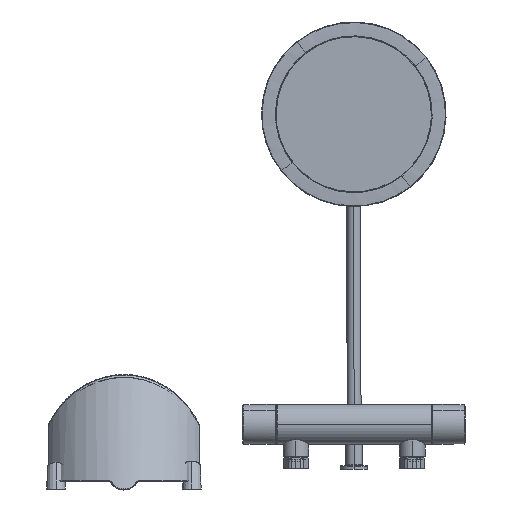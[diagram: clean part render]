
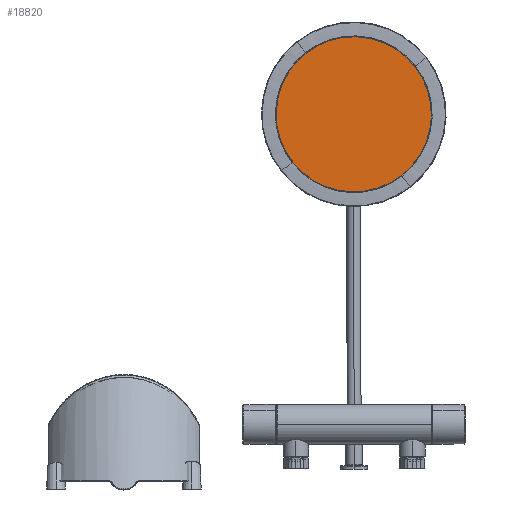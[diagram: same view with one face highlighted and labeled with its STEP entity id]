
A CAD part, front view. The second image highlights one B-rep face of the part: STEP entity #18820.
In plain terms, the highlighted planar face has unit normal (0, -1, 0).
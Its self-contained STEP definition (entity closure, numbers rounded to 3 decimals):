
#233 = DIRECTION ( 'NONE',  ( 0.788, 0., 0.616 ) ) ;
#716 = CARTESIAN_POINT ( 'NONE',  ( -0.385, 685.012, 483.308 ) ) ;
#1523 = CIRCLE ( 'NONE', #18717, 100.013 ) ;
#2017 = VERTEX_POINT ( 'NONE', #10421 ) ;
#2275 = DIRECTION ( 'NONE',  ( 0., 1., 0. ) ) ;
#2969 = CARTESIAN_POINT ( 'NONE',  ( -61.947, 685.012, 562.128 ) ) ;
#3748 = EDGE_CURVE ( 'NONE', #2017, #18574, #17295, .T. ) ;
#7068 = DIRECTION ( 'NONE',  ( 0., 1., 0. ) ) ;
#7111 = EDGE_LOOP ( 'NONE', ( #15723, #13691 ) ) ;
#9506 = DIRECTION ( 'NONE',  ( 0., 1., 0. ) ) ;
#9981 = PLANE ( 'NONE',  #18267 ) ;
#10265 = EDGE_CURVE ( 'NONE', #18574, #2017, #1523, .T. ) ;
#10421 = CARTESIAN_POINT ( 'NONE',  ( 61.178, 685.012, 404.487 ) ) ;
#12076 = FACE_OUTER_BOUND ( 'NONE', #7111, .T. ) ;
#13103 = DIRECTION ( 'NONE',  ( 0.788, 0., 0.616 ) ) ;
#13691 = ORIENTED_EDGE ( 'NONE', *, *, #10265, .F. ) ;
#15723 = ORIENTED_EDGE ( 'NONE', *, *, #3748, .F. ) ;
#16315 = CARTESIAN_POINT ( 'NONE',  ( -0.385, 685.012, 483.308 ) ) ;
#16398 = AXIS2_PLACEMENT_3D ( 'NONE', #16315, #7068, #17869 ) ;
#17295 = CIRCLE ( 'NONE', #16398, 100.013 ) ;
#17869 = DIRECTION ( 'NONE',  ( 0.788, 0., 0.616 ) ) ;
#18267 = AXIS2_PLACEMENT_3D ( 'NONE', #716, #2275, #13103 ) ;
#18574 = VERTEX_POINT ( 'NONE', #2969 ) ;
#18717 = AXIS2_PLACEMENT_3D ( 'NONE', #18762, #9506, #233 ) ;
#18762 = CARTESIAN_POINT ( 'NONE',  ( -0.385, 685.012, 483.308 ) ) ;
#18820 = ADVANCED_FACE ( 'NONE', ( #12076 ), #9981, .F. ) ;
